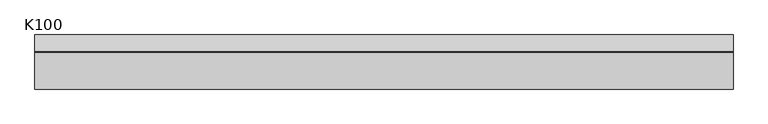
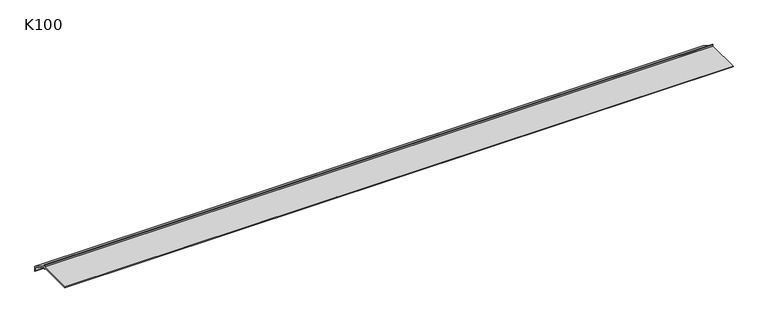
"""IFC4 building model written with IfcOpenShell, lengths in millimetres: proxy geometry, K100 Profil okapowy prosty : K100."""

from ifc_helpers import new_model, si_unit, frame, origin, place, context, project, spatial, polyline, outline, extrude, source, transform, mapped, element, save


def k100_06891d6d(model_context):
    return source(origin(), model_context, "Body", "SweptSolid", [
        extrude(outline(polyline([(0.0, -3.0), (30.0, -21.1), (30.0, -30.42), (28.75, -29.17), (28.75, -21.8057194), (0.0, -4.4598861), (0.0, -7.25), (-1.25, -7.25), (-1.25, -4.25), (-66.25, -4.25), (-66.25, -3.0), (-1.25, -3.0), (-1.25, 0.0), (0.0, 0.0), (0.0, -3.0)])), frame((0.0, 0.0, 0.0), z_axis=(1.0, 0.0, 0.0), x_axis=(0.0, 1.0, 0.0)), (0.0, 0.0, 1.0), 1241.7763931),
    ])


if __name__ == "__main__":
    model = new_model("IFC4")
    model_context = context("Model", 3, world=origin())
    ifc_project = project(units=[si_unit("LENGTHUNIT", "METRE", prefix="MILLI")], contexts=[model_context])
    site = spatial("IfcSite", under=ifc_project)
    building = spatial("IfcBuilding", under=site)
    placement = place(None, origin())
    k100_shape = k100_06891d6d(model_context)
    element("IfcBuildingElementProxy", 1, Name="K100 Profil okapowy prosty : K100", ObjectType="K100 Profil okapowy prosty : K100", at=placement, inside=building, context=model_context, shape_type="MappedRepresentation", body=[
        mapped(k100_shape, transform((0.0, 0.0, 0.0), x_axis=(1.0, 0.0, 0.0), y_axis=(0.0, 1.0, 0.0), z_axis=(0.0, 0.0, 1.0))),
    ])
    save(model, "model.ifc")
